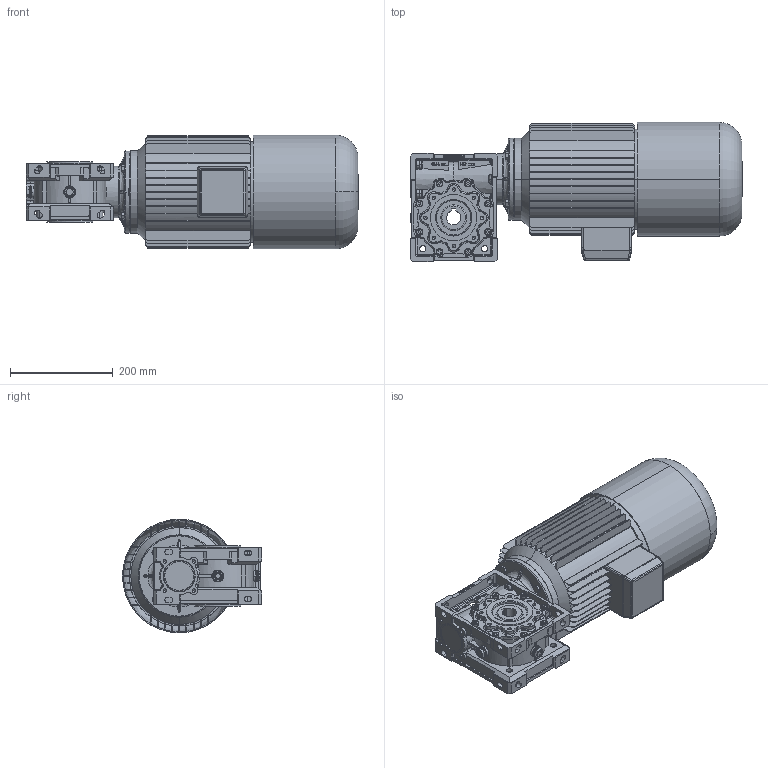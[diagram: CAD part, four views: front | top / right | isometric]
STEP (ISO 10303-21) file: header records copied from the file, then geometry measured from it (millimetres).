
FILE_DESCRIPTION((''),'2;1');
FILE_NAME('D:\_Assiemi MV\_File Sito\75\STP\MV75_B14-112BRAKE.stp','2005-07-27T12:03:29',('tech2'),(''),'Autodesk Inventor 9','Autodesk Inventor 9','');
FILE_SCHEMA(('AUTOMOTIVE_DESIGN { 1 0 10303 214 1 1 1 1 }'));
Length unit declared in the file: millimetre
Products named in the file (14): MV75_B14-112BRAKE; 4007501-A0; 4007504-A0; TCCE-8X16-ribassata; 4007508-A0; UNI-ISO 6194-1 (4) Tipo4 50 x  68 x  8; Capp-62-7; Guarnizione-tappo-3-8-gas; Tappo-3-8-gas-nero; Paraolio-40-68-7; motori B14 brake 112; FM-63-75-D=160; UNI 5738  (Filetto fine) M8 x 1 x 30
Assembly tree (28 placements, depth 3):
  MV75_B14-112BRAKE
    4007501-A0
    4007504-A0
    TCCE-8X16-ribassata  x8
    4007508-A0
    UNI-ISO 6194-1 (4) Tipo4 50 x  68 x  8  x2
    Capp-62-7
    Guarnizione-tappo-3-8-gas  x3
    Tappo-3-8-gas-nero  x3
    Paraolio-40-68-7
    motori B14 brake 112
    FM-63-75-D=160
      FM-63-75-D=160
      UNI 5738  (Filetto fine) M8 x 1 x 30  x4
Bounding box: 645.5 x 270.5 x 221 mm (x, y, z)
Volume: 10667209.6 mm3; surface area: 1243233.6 mm2
Topology: 28 solids, 30 shells, 4099 faces, 10600 edges, 6678 vertices
Faces by surface type: plane 1592, cylinder 1248, bspline 1055, cone 134, torus 66, sphere 4
Entity records: 141687 total; most frequent: CARTESIAN_POINT 53288, ORIENTED_EDGE 19296, DIRECTION 17224, EDGE_CURVE 9648, VERTEX_POINT 6176, AXIS2_PLACEMENT_3D 6039, VECTOR 5146, LINE 5146
